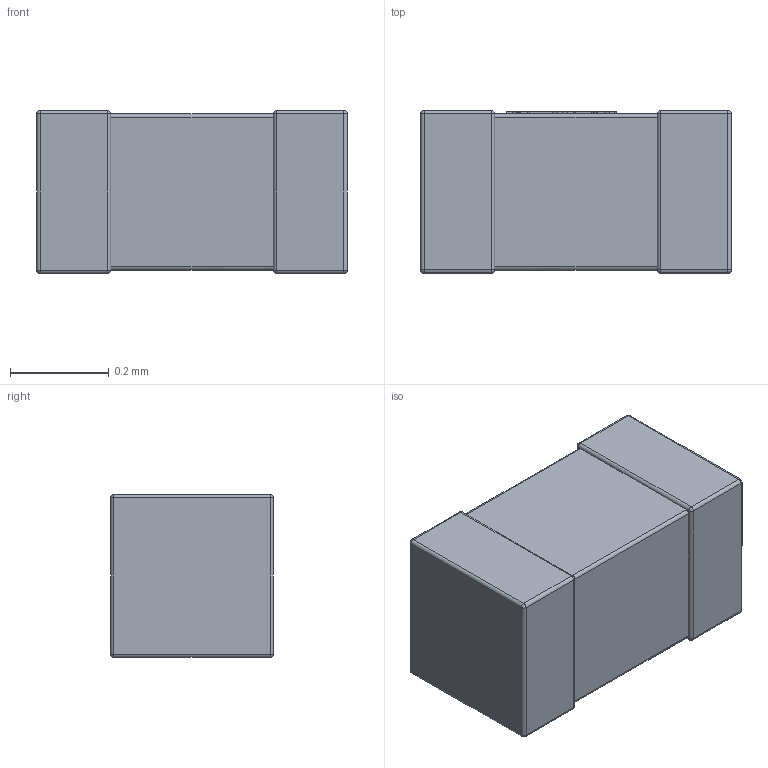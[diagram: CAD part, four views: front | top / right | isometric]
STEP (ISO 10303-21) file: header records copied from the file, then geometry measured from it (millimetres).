
FILE_DESCRIPTION (( 'STEP AP214' ), '1' );
FILE_NAME ('CCS_CCSTDNOSYAGEO_0201_L0.63W0.33T0.33B0.2.STEP', '2025-07-29T15:17:46', ( '' ), ( '' ), 'SwSTEP 2.0', 'SolidWorks 2021', '' );
FILE_SCHEMA (( 'AUTOMOTIVE_DESIGN' ));
Length unit declared in the file: millimetre
Products named in the file (1): CCS_CCSTDNOSYAGEO_0201_L0.63W0.33T0.33B0.2
Bounding box: 0.63 x 0.33 x 0.33 mm (x, y, z)
Volume: 0.1 mm3; surface area: 1 mm2
Topology: 4 solids, 4 shells, 121 faces, 303 edges, 174 vertices
Faces by surface type: plane 71, cylinder 34, sphere 16
Entity records: 4270 total; most frequent: CARTESIAN_POINT 751, ORIENTED_EDGE 574, DIRECTION 555, EDGE_CURVE 287, VECTOR 215, LINE 215, VERTEX_POINT 174, AXIS2_PLACEMENT_3D 170
